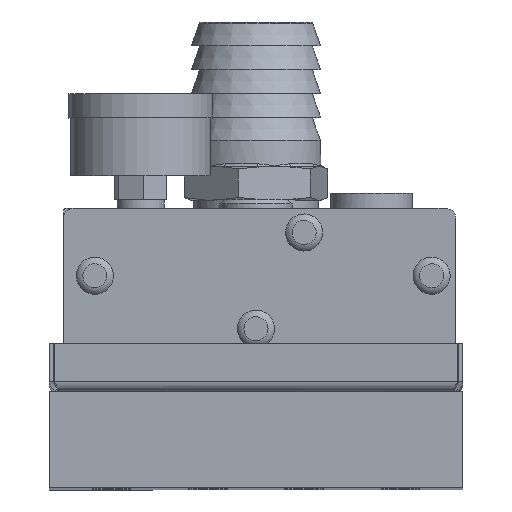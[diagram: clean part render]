
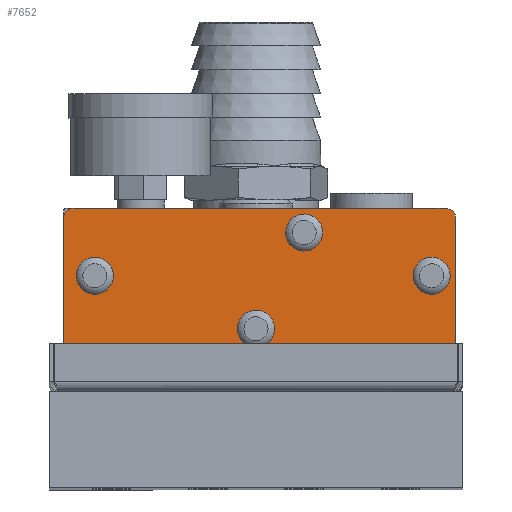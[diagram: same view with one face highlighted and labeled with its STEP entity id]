
A CAD part, top view. The second image highlights one B-rep face of the part: STEP entity #7652.
In plain terms, the highlighted planar face has unit normal (0, 0, 1).
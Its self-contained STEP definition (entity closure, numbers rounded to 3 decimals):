
#17 = CARTESIAN_POINT ( 'NONE',  ( 32.643, 1., 151. ) ) ;
#96 = LINE ( 'NONE', #7688, #367 ) ;
#139 = ORIENTED_EDGE ( 'NONE', *, *, #9703, .T. ) ;
#212 = CIRCLE ( 'NONE', #8849, 3.857 ) ;
#294 = CIRCLE ( 'NONE', #7300, 2. ) ;
#324 = DIRECTION ( 'NONE',  ( -1., 0., 0. ) ) ;
#367 = VECTOR ( 'NONE', #3200, 1000. ) ;
#377 = CIRCLE ( 'NONE', #7981, 3.857 ) ;
#386 = ORIENTED_EDGE ( 'NONE', *, *, #9553, .T. ) ;
#532 = CARTESIAN_POINT ( 'NONE',  ( 36.5, 1., 151. ) ) ;
#573 = DIRECTION ( 'NONE',  ( -1., 0., 0. ) ) ;
#653 = CARTESIAN_POINT ( 'NONE',  ( 41.5, 13., 151. ) ) ;
#668 = CARTESIAN_POINT ( 'NONE',  ( -38., -15., 151. ) ) ;
#849 = DIRECTION ( 'NONE',  ( 1., 0., 0. ) ) ;
#916 = CIRCLE ( 'NONE', #7680, 2. ) ;
#959 = CARTESIAN_POINT ( 'NONE',  ( -3.857, -10., 151. ) ) ;
#1136 = VECTOR ( 'NONE', #1567, 1000. ) ;
#1156 = LINE ( 'NONE', #653, #1136 ) ;
#1225 = CIRCLE ( 'NONE', #7960, 3.857 ) ;
#1302 = VERTEX_POINT ( 'NONE', #959 ) ;
#1339 = ORIENTED_EDGE ( 'NONE', *, *, #9573, .T. ) ;
#1371 = CARTESIAN_POINT ( 'NONE',  ( 10., 10., 151. ) ) ;
#1382 = CIRCLE ( 'NONE', #8772, 3.857 ) ;
#1450 = DIRECTION ( 'NONE',  ( -1., 0., 0. ) ) ;
#1527 = DIRECTION ( 'NONE',  ( 0., 0., 1. ) ) ;
#1536 = CARTESIAN_POINT ( 'NONE',  ( -40., -13., 151. ) ) ;
#1567 = DIRECTION ( 'NONE',  ( 0., 1., 0. ) ) ;
#1614 = LINE ( 'NONE', #2777, #1662 ) ;
#1662 = VECTOR ( 'NONE', #4560, 1000. ) ;
#1785 = CIRCLE ( 'NONE', #7178, 2. ) ;
#1923 = CARTESIAN_POINT ( 'NONE',  ( 41.5, -13., 151. ) ) ;
#2035 = EDGE_LOOP ( 'NONE', ( #6379, #4551, #139, #10501, #6780, #3878, #2206, #7932 ) ) ;
#2205 = CARTESIAN_POINT ( 'NONE',  ( 39.5, -15., 151. ) ) ;
#2206 = ORIENTED_EDGE ( 'NONE', *, *, #9591, .T. ) ;
#2272 = DIRECTION ( 'NONE',  ( -1., 0., 0. ) ) ;
#2342 = CARTESIAN_POINT ( 'NONE',  ( -38., 13., 151. ) ) ;
#2378 = DIRECTION ( 'NONE',  ( 0., 0., -1. ) ) ;
#2592 = FACE_BOUND ( 'NONE', #10898, .T. ) ;
#2777 = CARTESIAN_POINT ( 'NONE',  ( -40., 13., 151. ) ) ;
#2909 = CARTESIAN_POINT ( 'NONE',  ( -38., 15., 151. ) ) ;
#2966 = VECTOR ( 'NONE', #11279, 1000. ) ;
#3170 = CARTESIAN_POINT ( 'NONE',  ( 39.5, 15., 151. ) ) ;
#3200 = DIRECTION ( 'NONE',  ( -1., 0., 0. ) ) ;
#3235 = DIRECTION ( 'NONE',  ( -1., 0., 0. ) ) ;
#3672 = VERTEX_POINT ( 'NONE', #6331 ) ;
#3757 = LINE ( 'NONE', #10332, #2966 ) ;
#3878 = ORIENTED_EDGE ( 'NONE', *, *, #9596, .T. ) ;
#3883 = PLANE ( 'NONE',  #9971 ) ;
#4551 = ORIENTED_EDGE ( 'NONE', *, *, #9665, .T. ) ;
#4560 = DIRECTION ( 'NONE',  ( 0., -1., 0. ) ) ;
#4583 = VERTEX_POINT ( 'NONE', #17 ) ;
#4638 = DIRECTION ( 'NONE',  ( 0., 0., 1. ) ) ;
#4950 = VERTEX_POINT ( 'NONE', #3170 ) ;
#5021 = VERTEX_POINT ( 'NONE', #11840 ) ;
#5274 = VERTEX_POINT ( 'NONE', #2909 ) ;
#5412 = CARTESIAN_POINT ( 'NONE',  ( 6.143, 10., 151. ) ) ;
#5956 = DIRECTION ( 'NONE',  ( 0., 0., -1. ) ) ;
#6011 = VERTEX_POINT ( 'NONE', #9758 ) ;
#6223 = DIRECTION ( 'NONE',  ( 0., 0., 1. ) ) ;
#6270 = EDGE_LOOP ( 'NONE', ( #1339 ) ) ;
#6331 = CARTESIAN_POINT ( 'NONE',  ( -37.357, 1., 151. ) ) ;
#6379 = ORIENTED_EDGE ( 'NONE', *, *, #9800, .T. ) ;
#6551 = VERTEX_POINT ( 'NONE', #1536 ) ;
#6613 = DIRECTION ( 'NONE',  ( 0., 0., -1. ) ) ;
#6780 = ORIENTED_EDGE ( 'NONE', *, *, #9627, .T. ) ;
#6794 = DIRECTION ( 'NONE',  ( 0., 0., -1. ) ) ;
#6873 = CARTESIAN_POINT ( 'NONE',  ( 39.5, 13., 151. ) ) ;
#7123 = FACE_BOUND ( 'NONE', #9649, .T. ) ;
#7178 = AXIS2_PLACEMENT_3D ( 'NONE', #10285, #4638, #11238 ) ;
#7210 = FACE_BOUND ( 'NONE', #7286, .T. ) ;
#7286 = EDGE_LOOP ( 'NONE', ( #11746 ) ) ;
#7300 = AXIS2_PLACEMENT_3D ( 'NONE', #6873, #1527, #7812 ) ;
#7650 = DIRECTION ( 'NONE',  ( 0., 0., -1. ) ) ;
#7652 = ADVANCED_FACE ( 'NONE', ( #7123, #8775, #7210, #2592, #8629 ), #3883, .F. ) ;
#7680 = AXIS2_PLACEMENT_3D ( 'NONE', #11939, #6223, #849 ) ;
#7688 = CARTESIAN_POINT ( 'NONE',  ( -38., 15., 151. ) ) ;
#7771 = CARTESIAN_POINT ( 'NONE',  ( 0., -10., 151. ) ) ;
#7812 = DIRECTION ( 'NONE',  ( 1., 0., 0. ) ) ;
#7932 = ORIENTED_EDGE ( 'NONE', *, *, #9551, .T. ) ;
#7960 = AXIS2_PLACEMENT_3D ( 'NONE', #7771, #2378, #8762 ) ;
#7981 = AXIS2_PLACEMENT_3D ( 'NONE', #532, #6794, #1450 ) ;
#8074 = VERTEX_POINT ( 'NONE', #5412 ) ;
#8508 = CARTESIAN_POINT ( 'NONE',  ( -38., 13., 151. ) ) ;
#8629 = FACE_OUTER_BOUND ( 'NONE', #2035, .T. ) ;
#8724 = DIRECTION ( 'NONE',  ( 0., 0., 1. ) ) ;
#8762 = DIRECTION ( 'NONE',  ( -1., 0., 0. ) ) ;
#8772 = AXIS2_PLACEMENT_3D ( 'NONE', #11654, #5956, #573 ) ;
#8775 = FACE_BOUND ( 'NONE', #6270, .T. ) ;
#8849 = AXIS2_PLACEMENT_3D ( 'NONE', #1371, #7650, #2272 ) ;
#8952 = ORIENTED_EDGE ( 'NONE', *, *, #9516, .T. ) ;
#9053 = VERTEX_POINT ( 'NONE', #668 ) ;
#9516 = EDGE_CURVE ( 'NONE', #8074, #8074, #212, .T. ) ;
#9551 = EDGE_CURVE ( 'NONE', #4950, #5274, #96, .T. ) ;
#9553 = EDGE_CURVE ( 'NONE', #4583, #4583, #377, .T. ) ;
#9573 = EDGE_CURVE ( 'NONE', #3672, #3672, #1382, .T. ) ;
#9574 = EDGE_CURVE ( 'NONE', #1302, #1302, #1225, .T. ) ;
#9591 = EDGE_CURVE ( 'NONE', #5021, #4950, #294, .T. ) ;
#9596 = EDGE_CURVE ( 'NONE', #11968, #5021, #1156, .T. ) ;
#9627 = EDGE_CURVE ( 'NONE', #10585, #11968, #916, .T. ) ;
#9649 = EDGE_LOOP ( 'NONE', ( #386 ) ) ;
#9665 = EDGE_CURVE ( 'NONE', #6011, #6551, #1614, .T. ) ;
#9703 = EDGE_CURVE ( 'NONE', #6551, #9053, #1785, .T. ) ;
#9723 = EDGE_CURVE ( 'NONE', #9053, #10585, #3757, .T. ) ;
#9758 = CARTESIAN_POINT ( 'NONE',  ( -40., 13., 151. ) ) ;
#9800 = EDGE_CURVE ( 'NONE', #5274, #6011, #10865, .T. ) ;
#9971 = AXIS2_PLACEMENT_3D ( 'NONE', #8508, #6613, #324 ) ;
#10285 = CARTESIAN_POINT ( 'NONE',  ( -38., -13., 151. ) ) ;
#10332 = CARTESIAN_POINT ( 'NONE',  ( -38., -15., 151. ) ) ;
#10501 = ORIENTED_EDGE ( 'NONE', *, *, #9723, .T. ) ;
#10585 = VERTEX_POINT ( 'NONE', #2205 ) ;
#10865 = CIRCLE ( 'NONE', #11314, 2. ) ;
#10898 = EDGE_LOOP ( 'NONE', ( #8952 ) ) ;
#11238 = DIRECTION ( 'NONE',  ( -1., 0., 0. ) ) ;
#11279 = DIRECTION ( 'NONE',  ( 1., 0., 0. ) ) ;
#11314 = AXIS2_PLACEMENT_3D ( 'NONE', #2342, #8724, #3235 ) ;
#11654 = CARTESIAN_POINT ( 'NONE',  ( -33.5, 1., 151. ) ) ;
#11746 = ORIENTED_EDGE ( 'NONE', *, *, #9574, .T. ) ;
#11840 = CARTESIAN_POINT ( 'NONE',  ( 41.5, 13., 151. ) ) ;
#11939 = CARTESIAN_POINT ( 'NONE',  ( 39.5, -13., 151. ) ) ;
#11968 = VERTEX_POINT ( 'NONE', #1923 ) ;
